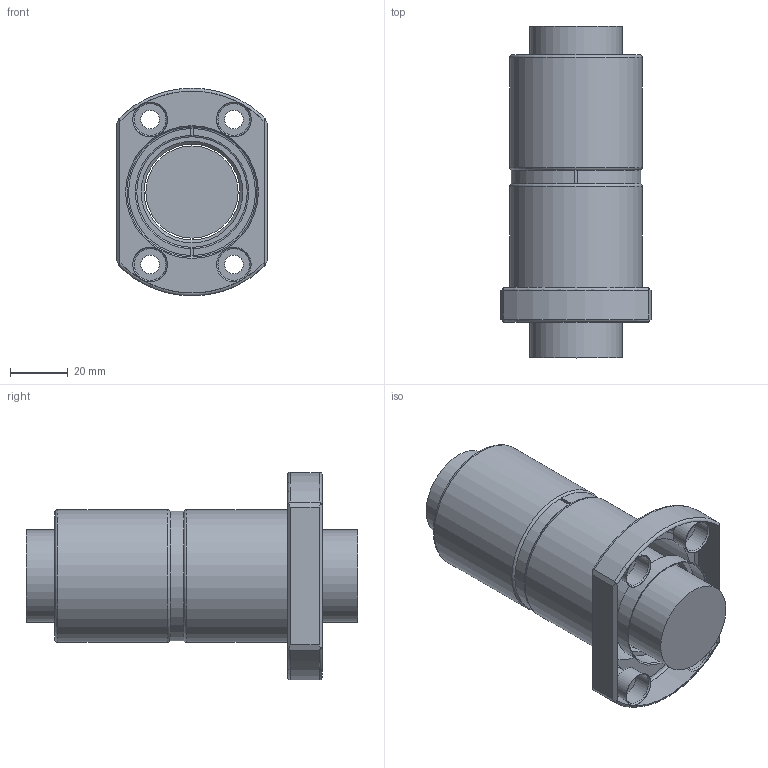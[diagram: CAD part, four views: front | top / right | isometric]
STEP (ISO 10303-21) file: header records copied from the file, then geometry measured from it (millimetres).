
FILE_DESCRIPTION(/* description */ (''),/* implementation_level */ '2;1');
FILE_NAME(/* name */ '3205.prt.step',/* time_stamp */ '2008-12-05T09:21:41+08:00',/* author */ (''),/* organization */ (''),/* preprocessor_version */ 'ST-DEVELOPER v11',/* originating_system */ 'SIEMENS UGS NX 6.0',/* authorisation */ '');
FILE_SCHEMA (('AUTOMOTIVE_DESIGN { 1 0 10303 214 1 1 1 1 }'));
Length unit declared in the file: millimetre
Products named in the file (1): 3205
Bounding box: 52 x 115 x 71.94 mm (x, y, z)
Volume: 177862 mm3; surface area: 45653.7 mm2
Topology: 5 solids, 5 shells, 76 faces, 171 edges, 110 vertices
Faces by surface type: plane 33, cylinder 23, torus 10, cone 10
Full cylindrical faces by diameter (mm): 6.5 x4, 11 x4, 31.95 x1, 33.2 x2, 36 x2, 38.3 x2, 46 x2
Entity records: 2134 total; most frequent: CARTESIAN_POINT 541, DIRECTION 334, ORIENTED_EDGE 252, AXIS2_PLACEMENT_3D 147, EDGE_LOOP 126, EDGE_CURVE 126, VERTEX_POINT 98, FACE_BOUND 96
